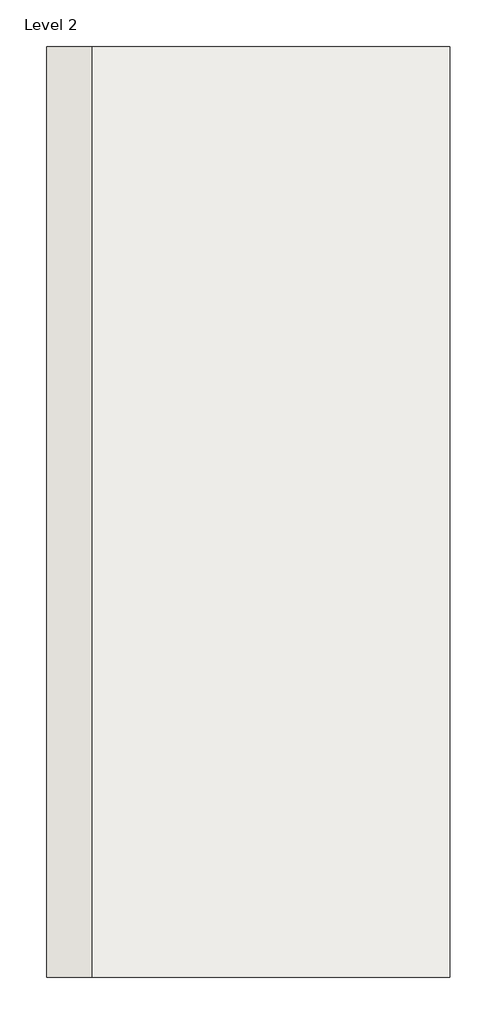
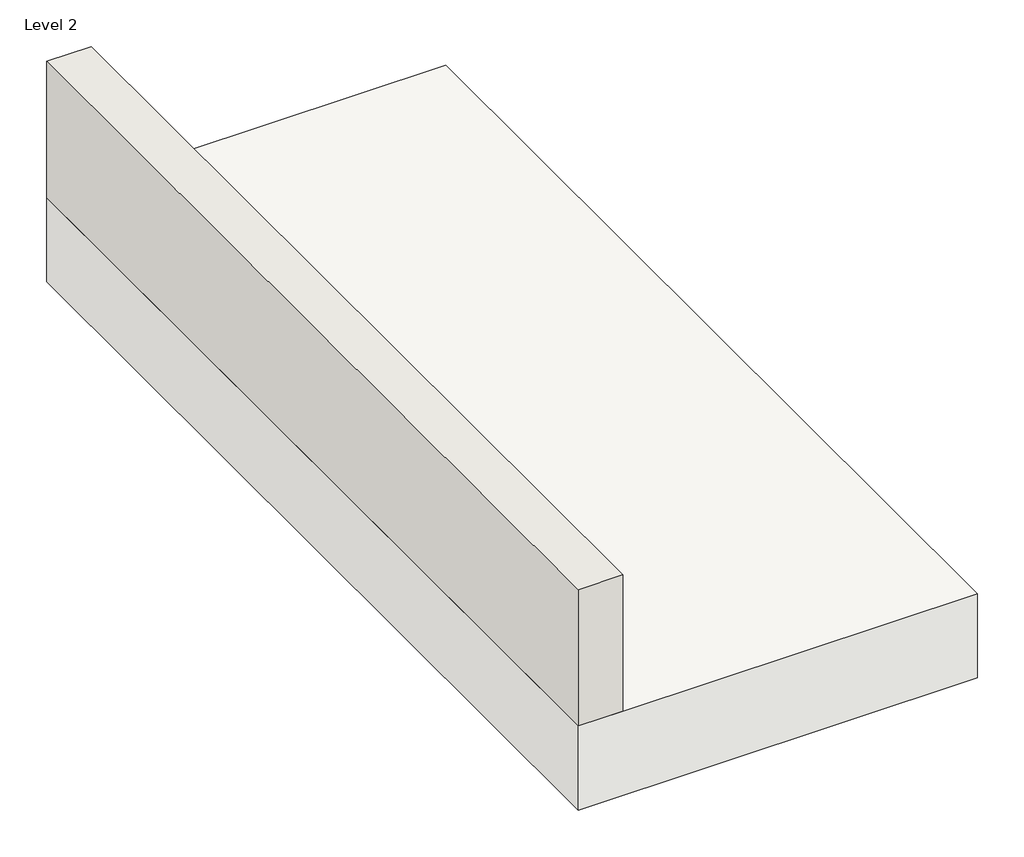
# One storey: 1 slab, 1 wall.
"""IFC4 building model written with IfcOpenShell, lengths in millimetres."""

from ifc_helpers import new_model, si_unit, frame, origin, place, context, project, spatial, polyline, outline, extrude, faceted_brep, element, save

model = new_model("IFC4")

# Units and contexts
model_context = context("Model", 3, world=origin())
ifc_project = project(units=[si_unit("LENGTHUNIT", "METRE", prefix="MILLI")], contexts=[model_context])

# Site, building, storey
site = spatial("IfcSite", under=ifc_project)
building = spatial("IfcBuilding", under=site)
storey = spatial("IfcBuildingStorey", under=building, Name="Level 2", Elevation=500.0)

# Slab
placement = place(None, origin())
element("IfcSlab", 1, ObjectType="Generic_300", at=placement, inside=storey, context=model_context, shape_type="Brep", body=[
    faceted_brep([(-2170.4954508, -8489.9909639, 200.0), (-3514.0889074, -8489.9909639, 200.0), (-3514.0889074, -5389.9909639, 200.0), (-2170.4954508, -5389.9909639, 200.0), (-2170.4954508, -8489.9909639, 500.0), (-2170.4954508, -5389.9909639, 500.0), (-3364.0889074, -5389.9909639, 500.0), (-3514.0889074, -5389.9909639, 500.0), (-3514.0889074, -8489.9909639, 500.0), (-3364.0889074, -8489.9909639, 500.0)], [[[0, 1, 2, 3]], [[4, 5, 6, 7, 8, 9]], [[1, 0, 4, 9, 8]], [[2, 1, 8, 7]], [[3, 2, 7, 6, 5]], [[0, 3, 5, 4]]]),
])

# Wall
element("IfcWall", 2, ObjectType="SolidJohn_23-13 21 00_150_Blocks and Bricks_Insulating", at=placement, inside=storey, context=model_context, shape_type="SweptSolid", body=[
    extrude(outline(polyline([(-3364.0889074, -5389.9909639), (-3364.0889074, -8489.9909639), (-3514.0889074, -8489.9909639), (-3514.0889074, -5389.9909639), (-3364.0889074, -5389.9909639)])), frame((0.0, 0.0, 500.0), z_axis=(0.0, 0.0, 1.0), x_axis=(1.0, 0.0, 0.0)), (0.0, 0.0, 1.0), 485.0),
])

save(model, "model.ifc")
